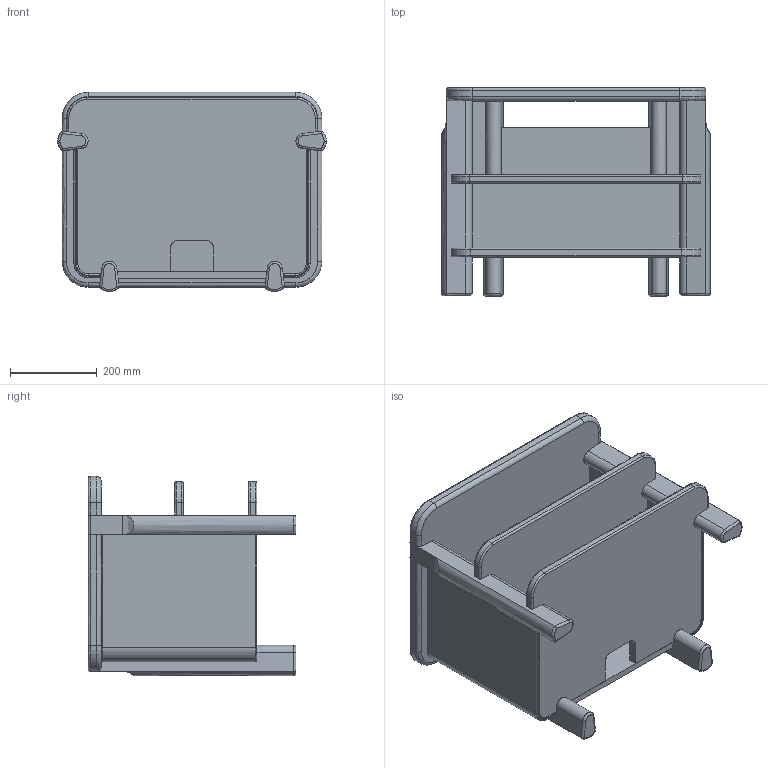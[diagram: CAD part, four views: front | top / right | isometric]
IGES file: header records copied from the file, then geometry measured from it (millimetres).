
Start section: SolidWorks IGES file using analytic representation for surfaces
Global section: file name: C:\Users\Utilizador\Desktop\Sales Files\685\685Q Twenty-Five Bedside table without drawer_3D IGS.IGS; native system: SolidWorks 2016; preprocessor: SolidWorks 2016; author: Utilizador; date: 221024.091959; units: millimetre
Bounding box: 620 x 480 x 460 mm (x, y, z)
Surface area: 2604393.1 mm2 (no closed solid volume)
Topology: 0 solids, 0 shells, 332 faces, 4020 edges, 4004 vertices
Faces by surface type: revolution 176, bspline 156
